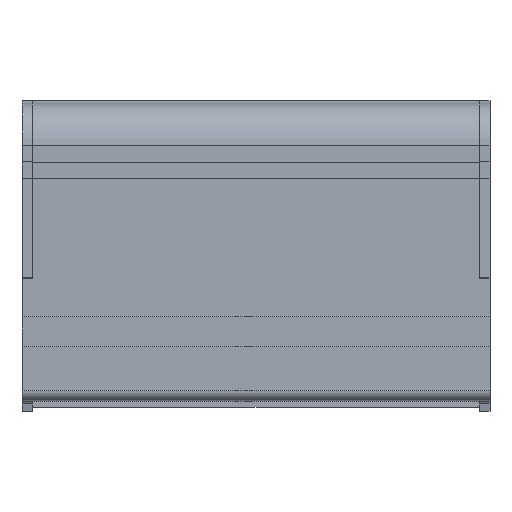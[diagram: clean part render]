
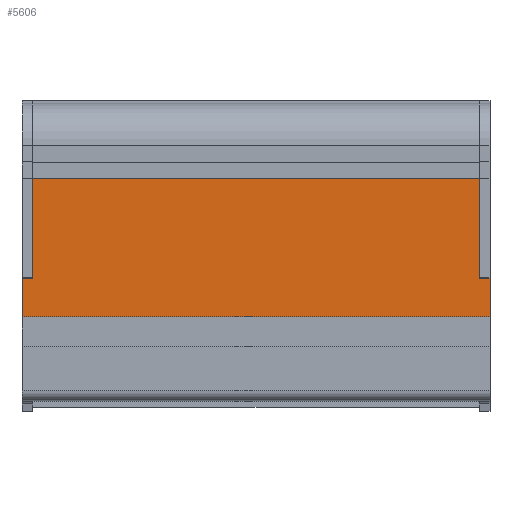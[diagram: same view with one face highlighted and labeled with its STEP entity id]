
A CAD part, top view. The second image highlights one B-rep face of the part: STEP entity #5606.
In plain terms, the highlighted planar face has unit normal (0, 0, 1).
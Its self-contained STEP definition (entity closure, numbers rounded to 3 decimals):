
#171 = DIRECTION ( 'NONE',  ( -1., 0., 0. ) ) ;
#405 = CARTESIAN_POINT ( 'NONE',  ( 131.8, 21.364, 6.078 ) ) ;
#438 = CARTESIAN_POINT ( 'NONE',  ( 131.8, 49.272, 6.078 ) ) ;
#530 = LINE ( 'NONE', #15140, #20871 ) ;
#532 = VERTEX_POINT ( 'NONE', #405 ) ;
#846 = LINE ( 'NONE', #11015, #15056 ) ;
#905 = DIRECTION ( 'NONE',  ( 1., 0., 0. ) ) ;
#994 = DIRECTION ( 'NONE',  ( 0., 1., 0. ) ) ;
#1175 = EDGE_CURVE ( 'NONE', #23866, #20634, #14881, .T. ) ;
#1516 = CARTESIAN_POINT ( 'NONE',  ( 2.9, 49.272, 6.078 ) ) ;
#2274 = FACE_OUTER_BOUND ( 'NONE', #4537, .T. ) ;
#2349 = ORIENTED_EDGE ( 'NONE', *, *, #13802, .F. ) ;
#2871 = CARTESIAN_POINT ( 'NONE',  ( 128.9, 49.272, 6.078 ) ) ;
#3380 = LINE ( 'NONE', #11271, #17617 ) ;
#3400 = LINE ( 'NONE', #8297, #22564 ) ;
#4037 = DIRECTION ( 'NONE',  ( 0., -1., 0. ) ) ;
#4173 = DIRECTION ( 'NONE',  ( 0., 1., 0. ) ) ;
#4537 = EDGE_LOOP ( 'NONE', ( #2349, #14171, #8574, #16920, #9677, #17939, #8962, #10901 ) ) ;
#4594 = LINE ( 'NONE', #1516, #23757 ) ;
#5606 = ADVANCED_FACE ( 'NONE', ( #2274 ), #11541, .F. ) ;
#6210 = CARTESIAN_POINT ( 'NONE',  ( 0., 21.364, 6.078 ) ) ;
#6228 = CARTESIAN_POINT ( 'NONE',  ( 2.9, 21.364, 6.078 ) ) ;
#6557 = EDGE_CURVE ( 'NONE', #532, #23866, #3380, .T. ) ;
#6726 = CARTESIAN_POINT ( 'NONE',  ( 131.8, 49.272, 6.078 ) ) ;
#7344 = CARTESIAN_POINT ( 'NONE',  ( 0., 10.45, 6.078 ) ) ;
#7536 = CARTESIAN_POINT ( 'NONE',  ( 128.9, 21.364, 6.078 ) ) ;
#7644 = EDGE_CURVE ( 'NONE', #20634, #16073, #8285, .T. ) ;
#8285 = LINE ( 'NONE', #6726, #22488 ) ;
#8297 = CARTESIAN_POINT ( 'NONE',  ( 131.8, 21.364, 6.078 ) ) ;
#8574 = ORIENTED_EDGE ( 'NONE', *, *, #12695, .F. ) ;
#8962 = ORIENTED_EDGE ( 'NONE', *, *, #7644, .T. ) ;
#9677 = ORIENTED_EDGE ( 'NONE', *, *, #6557, .T. ) ;
#10901 = ORIENTED_EDGE ( 'NONE', *, *, #13209, .T. ) ;
#11015 = CARTESIAN_POINT ( 'NONE',  ( 131.8, 10.45, 6.078 ) ) ;
#11271 = CARTESIAN_POINT ( 'NONE',  ( 131.8, 21.364, 6.078 ) ) ;
#11305 = CARTESIAN_POINT ( 'NONE',  ( 2.9, 49.272, 6.078 ) ) ;
#11541 = PLANE ( 'NONE',  #20403 ) ;
#11761 = EDGE_CURVE ( 'NONE', #21558, #16546, #17989, .T. ) ;
#12690 = CARTESIAN_POINT ( 'NONE',  ( 131.8, 10.45, 6.078 ) ) ;
#12695 = EDGE_CURVE ( 'NONE', #22772, #16546, #846, .T. ) ;
#13209 = EDGE_CURVE ( 'NONE', #16073, #17743, #4594, .T. ) ;
#13472 = CARTESIAN_POINT ( 'NONE',  ( 128.9, 49.272, 6.078 ) ) ;
#13517 = DIRECTION ( 'NONE',  ( 0., -1., 0. ) ) ;
#13802 = EDGE_CURVE ( 'NONE', #21558, #17743, #3400, .T. ) ;
#14171 = ORIENTED_EDGE ( 'NONE', *, *, #11761, .T. ) ;
#14881 = LINE ( 'NONE', #2871, #19271 ) ;
#15056 = VECTOR ( 'NONE', #22132, 1000. ) ;
#15140 = CARTESIAN_POINT ( 'NONE',  ( 131.8, 49.272, 6.078 ) ) ;
#15284 = DIRECTION ( 'NONE',  ( 0., 0., -1. ) ) ;
#16073 = VERTEX_POINT ( 'NONE', #11305 ) ;
#16546 = VERTEX_POINT ( 'NONE', #7344 ) ;
#16920 = ORIENTED_EDGE ( 'NONE', *, *, #20957, .F. ) ;
#17617 = VECTOR ( 'NONE', #171, 1000. ) ;
#17743 = VERTEX_POINT ( 'NONE', #6228 ) ;
#17939 = ORIENTED_EDGE ( 'NONE', *, *, #1175, .T. ) ;
#17989 = LINE ( 'NONE', #22769, #22319 ) ;
#18225 = DIRECTION ( 'NONE',  ( 0., -1., 0. ) ) ;
#19271 = VECTOR ( 'NONE', #994, 1000. ) ;
#20403 = AXIS2_PLACEMENT_3D ( 'NONE', #438, #15284, #4173 ) ;
#20634 = VERTEX_POINT ( 'NONE', #13472 ) ;
#20871 = VECTOR ( 'NONE', #4037, 1000. ) ;
#20957 = EDGE_CURVE ( 'NONE', #532, #22772, #530, .T. ) ;
#21558 = VERTEX_POINT ( 'NONE', #6210 ) ;
#22132 = DIRECTION ( 'NONE',  ( -1., 0., 0. ) ) ;
#22319 = VECTOR ( 'NONE', #13517, 1000. ) ;
#22488 = VECTOR ( 'NONE', #23199, 1000. ) ;
#22564 = VECTOR ( 'NONE', #905, 1000. ) ;
#22769 = CARTESIAN_POINT ( 'NONE',  ( 0., 49.272, 6.078 ) ) ;
#22772 = VERTEX_POINT ( 'NONE', #12690 ) ;
#23199 = DIRECTION ( 'NONE',  ( -1., 0., 0. ) ) ;
#23757 = VECTOR ( 'NONE', #18225, 1000. ) ;
#23866 = VERTEX_POINT ( 'NONE', #7536 ) ;
